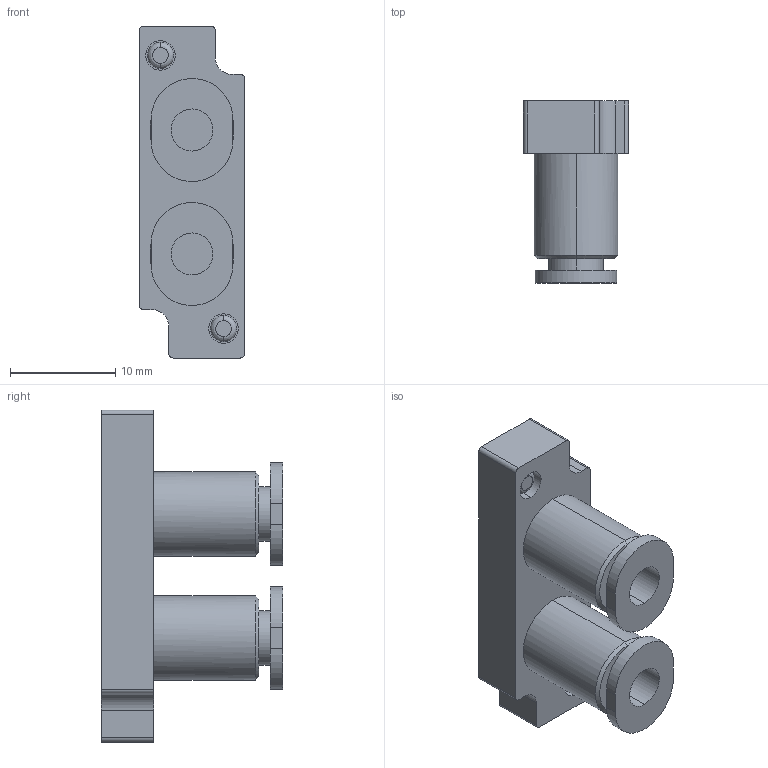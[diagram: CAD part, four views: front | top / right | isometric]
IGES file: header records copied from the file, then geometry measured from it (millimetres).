
Start section: ------------------------------------------------------------------------
Global section: file name: D:\ICADMX\tmp\trans3d_spg\CVICAD02.10028.F10_Port_VJ5_8566.igs; native system: spGate; preprocessor: ver12.6.6; author: Unknown; organization: Unknown; date: 200901.142423; units: millimetre
Bounding box: 10 x 17.3 x 31.6 mm (x, y, z)
Volume: 2375.3 mm3; surface area: 2052.1 mm2
Topology: 1 solids, 1 shells, 62 faces, 140 edges, 92 vertices
Faces by surface type: bspline 62
